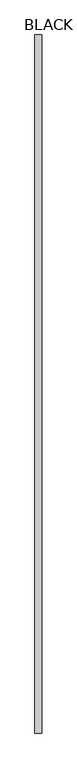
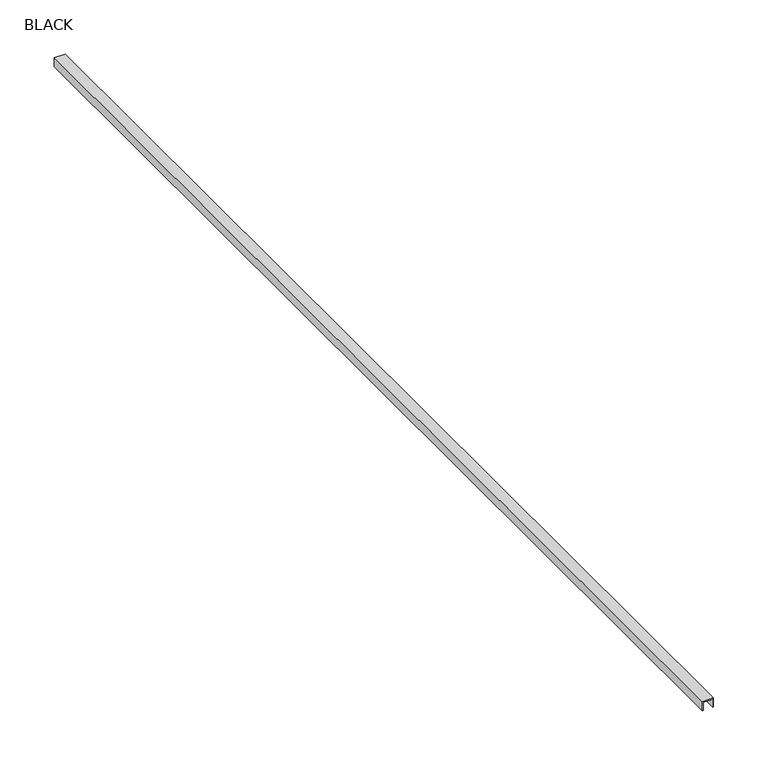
"""IFC4 building model written with IfcOpenShell, lengths in millimetres: proxy geometry, PORTOBELLO - METALLICA MET VALLEY 1,0X120 : BLACK."""

from ifc_helpers import new_model, si_unit, frame, origin, place, context, project, spatial, polyline, outline, extrude, source, transform, mapped, element, save


def black_ff7de772(model_context):
    return source(origin(), model_context, "Body", "SweptSolid", [
        extrude(outline(polyline([(0.0, 5.0), (-9.0, 5.0), (-9.0, 6.0), (1.0, 6.0), (1.0, -6.0), (-9.0, -6.0), (-9.0, -5.0), (0.0, -5.0), (0.0, 5.0)])), frame((0.0, -600.0, 0.0), z_axis=(0.0, 1.0, 0.0), x_axis=(0.0, 0.0, 1.0)), (0.0, 0.0, 1.0), 1200.0),
    ])


if __name__ == "__main__":
    model = new_model("IFC4")
    model_context = context("Model", 3, world=origin())
    ifc_project = project(units=[si_unit("LENGTHUNIT", "METRE", prefix="MILLI")], contexts=[model_context])
    site = spatial("IfcSite", under=ifc_project)
    building = spatial("IfcBuilding", under=site)
    placement = place(None, origin())
    black_shape = black_ff7de772(model_context)
    element("IfcBuildingElementProxy", 1, Name="PORTOBELLO - METALLICA MET VALLEY 1,0X120 : BLACK", ObjectType="PORTOBELLO - METALLICA MET VALLEY 1,0X120 : BLACK", at=placement, inside=building, context=model_context, shape_type="MappedRepresentation", body=[
        mapped(black_shape, transform((0.0, 0.0, 0.0), x_axis=(1.0, 0.0, 0.0), y_axis=(0.0, 1.0, 0.0), z_axis=(0.0, 0.0, 1.0))),
    ])
    save(model, "model.ifc")
